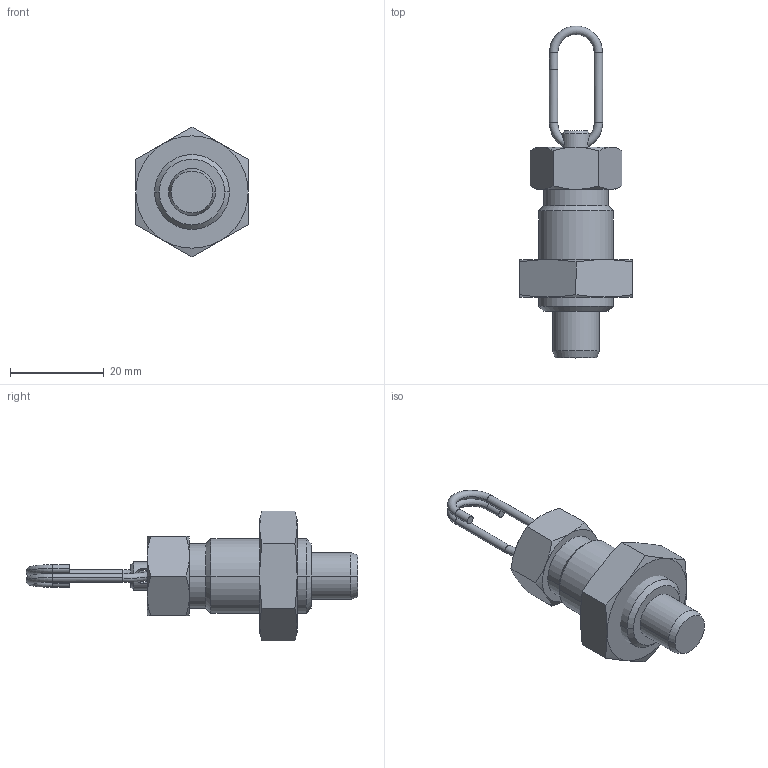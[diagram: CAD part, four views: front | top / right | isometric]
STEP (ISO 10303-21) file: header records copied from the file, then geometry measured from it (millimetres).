
FILE_DESCRIPTION (( 'STEP AP214' ), '1' );
FILE_NAME ('717-10-M16x1,5-DK-ST.step', '2025-04-15T05:13:10', ( '' ), ( '' ), 'SwSTEP 2.0', 'SolidWorks 2022', '' );
FILE_SCHEMA (( 'AUTOMOTIVE_DESIGN' ));
Length unit declared in the file: millimetre
Products named in the file (4): WB717_Stift^WB717_25-10-D; WB717_Hülse^WB717_10-M16x1,5; 717-10-M16x1,5-DK-ST; WB4035^WB717_M16x1,5
Assembly tree (3 placements, depth 2):
  717-10-M16x1,5-DK-ST
    WB717_Hülse^WB717_10-M16x1,5
    WB717_Stift^WB717_25-10-D
    WB4035^WB717_M16x1,5
Bounding box: 24 x 70.9 x 27.71 mm (x, y, z)
Volume: 10266.3 mm3; surface area: 6910.2 mm2
Topology: 3 solids, 3 shells, 97 faces, 226 edges, 136 vertices
Faces by surface type: cone 38, cylinder 28, plane 25, torus 6
Entity records: 3630 total; most frequent: CARTESIAN_POINT 853, DIRECTION 478, ORIENTED_EDGE 452, EDGE_CURVE 226, AXIS2_PLACEMENT_3D 211, VERTEX_POINT 136, CIRCLE 108, EDGE_LOOP 106
